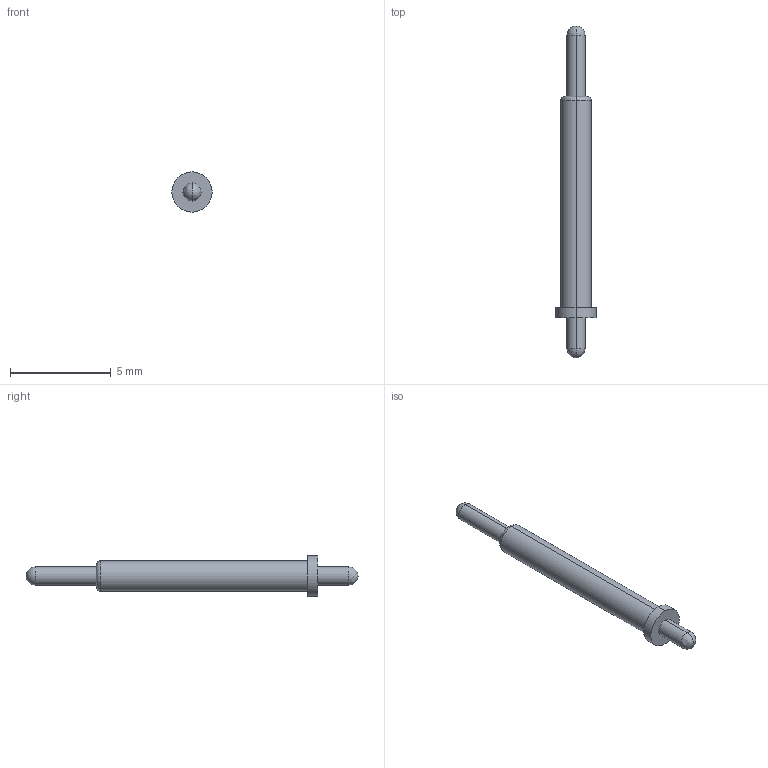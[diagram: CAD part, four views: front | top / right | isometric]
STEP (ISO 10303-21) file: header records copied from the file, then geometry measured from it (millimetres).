
FILE_DESCRIPTION((''),'2;1');
FILE_NAME('PRT0011','2023-06-01T11:35:38',('USER'),(''),'CREO PARAMETRIC BY PTC INC, 2020154','CREO PARAMETRIC BY PTC INC, 2020154','');
FILE_SCHEMA(('CONFIG_CONTROL_DESIGN'));
Length unit declared in the file: millimetre
Products named in the file (1): PRT0011
Bounding box: 2 x 16.5 x 2 mm (x, y, z)
Volume: 23.4 mm3; surface area: 72.8 mm2
Topology: 1 solids, 1 shells, 17 faces, 36 edges, 20 vertices
Faces by surface type: cylinder 8, plane 3, sphere 2, torus 2, bspline 2
Entity records: 522 total; most frequent: CARTESIAN_POINT 123, DIRECTION 86, ORIENTED_EDGE 64, AXIS2_PLACEMENT_3D 39, EDGE_CURVE 32, CIRCLE 24, VERTEX_POINT 20, EDGE_LOOP 20
